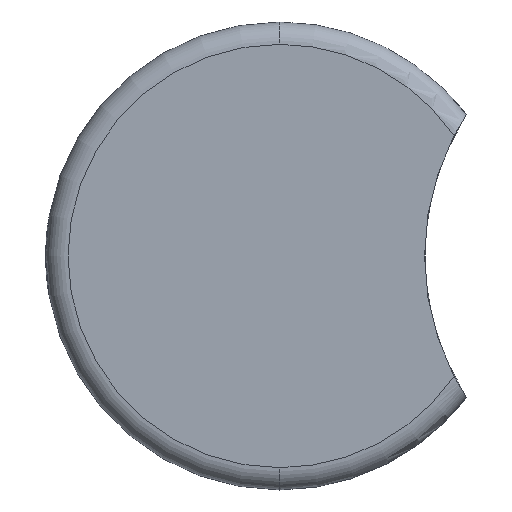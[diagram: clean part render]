
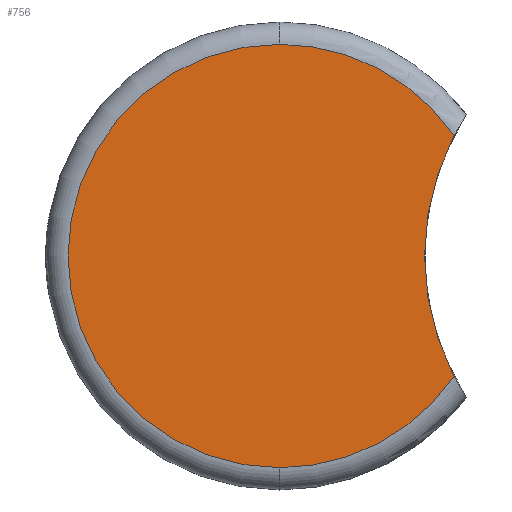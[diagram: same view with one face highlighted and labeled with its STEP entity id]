
A CAD part, front view. The second image highlights one B-rep face of the part: STEP entity #756.
In plain terms, the highlighted planar face has unit normal (0, -1, 0).
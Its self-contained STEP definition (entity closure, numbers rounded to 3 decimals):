
#496=CARTESIAN_POINT('Vertex',(0.,0.,-28.5)) ;
#499=CARTESIAN_POINT('Axis2P3D Location',(0.,0.,0.)) ;
#503=CARTESIAN_POINT('Vertex',(0.,0.,28.5)) ;
#523=CARTESIAN_POINT('Axis2P3D Location',(0.,0.,0.)) ;
#527=CARTESIAN_POINT('Vertex',(23.463,0.,16.178)) ;
#572=CARTESIAN_POINT('Axis2P3D Location',(54.5,0.,0.)) ;
#576=CARTESIAN_POINT('Vertex',(23.463,0.,-16.178)) ;
#733=CARTESIAN_POINT('Axis2P3D Location',(0.,0.,0.)) ;
#745=CARTESIAN_POINT('Axis2P3D Location',(0.,0.,0.)) ;
#500=DIRECTION('Axis2P3D Direction',(0.,1.,0.)) ;
#524=DIRECTION('Axis2P3D Direction',(-0.,1.,0.)) ;
#573=DIRECTION('Axis2P3D Direction',(0.,1.,0.)) ;
#734=DIRECTION('Axis2P3D Direction',(-0.,1.,0.)) ;
#746=DIRECTION('Axis2P3D Direction',(-0.,1.,0.)) ;
#747=DIRECTION('Axis2P3D XDirection',(0.,0.,1.)) ;
#501=AXIS2_PLACEMENT_3D('Circle Axis2P3D',#499,#500,$) ;
#525=AXIS2_PLACEMENT_3D('Circle Axis2P3D',#523,#524,$) ;
#574=AXIS2_PLACEMENT_3D('Circle Axis2P3D',#572,#573,$) ;
#735=AXIS2_PLACEMENT_3D('Circle Axis2P3D',#733,#734,$) ;
#748=AXIS2_PLACEMENT_3D('Plane Axis2P3D',#745,#746,#747) ;
#751=ORIENTED_EDGE('',*,*,#529,.F.) ;
#752=ORIENTED_EDGE('',*,*,#505,.F.) ;
#753=ORIENTED_EDGE('',*,*,#737,.F.) ;
#754=ORIENTED_EDGE('',*,*,#578,.T.) ;
#756=ADVANCED_FACE('A518-4',(#755),#749,.F.) ;
#502=CIRCLE('generated circle',#501,28.5) ;
#526=CIRCLE('generated circle',#525,28.5) ;
#575=CIRCLE('generated circle',#574,35.) ;
#736=CIRCLE('generated circle',#735,28.5) ;
#505=EDGE_CURVE('',#497,#504,#502,.T.) ;
#529=EDGE_CURVE('',#504,#528,#526,.T.) ;
#578=EDGE_CURVE('',#577,#528,#575,.T.) ;
#737=EDGE_CURVE('',#577,#497,#736,.T.) ;
#750=EDGE_LOOP('',(#751,#752,#753,#754)) ;
#755=FACE_OUTER_BOUND('',#750,.T.) ;
#749=PLANE('Plane',#748) ;
#497=VERTEX_POINT('',#496) ;
#504=VERTEX_POINT('',#503) ;
#528=VERTEX_POINT('',#527) ;
#577=VERTEX_POINT('',#576) ;
